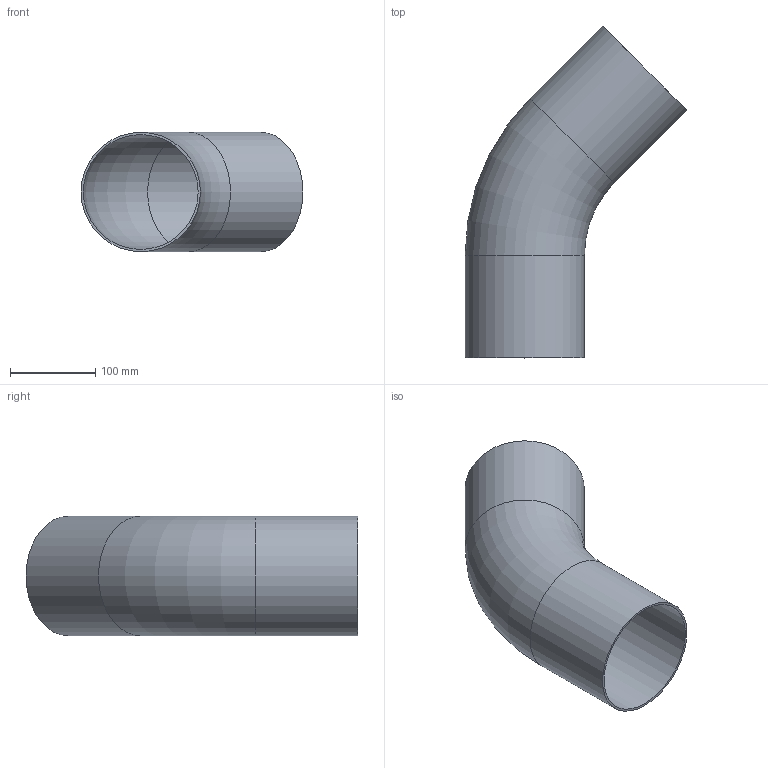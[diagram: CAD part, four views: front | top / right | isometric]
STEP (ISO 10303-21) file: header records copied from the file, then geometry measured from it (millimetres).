
FILE_DESCRIPTION(/* description */ (''),/* implementation_level */ '2;1');
FILE_NAME(/* name */ 'C:\Users\LK_9K\Desktop\STRAUB BOGEN 45 B3 DN125.stp',/* time_stamp */ '2021-04-09T07:12:24+02:00',/* author */ ('LK_9K'),/* organization */ (''),/* preprocessor_version */ 'ST-DEVELOPER v18.1',/* originating_system */ 'Autodesk Inventor 2020',/* authorisation */ '');
FILE_SCHEMA (('AUTOMOTIVE_DESIGN { 1 0 10303 214 3 1 1 }'));
Length unit declared in the file: millimetre
Products named in the file (1): Bauteil1
Bounding box: 259.74 x 388.59 x 139.7 mm (x, y, z)
Volume: 435875.2 mm3; surface area: 337528.3 mm2
Topology: 1 solids, 1 shells, 8 faces, 20 edges, 14 vertices
Faces by surface type: cylinder 4, torus 2, plane 2
Full cylindrical faces by diameter (mm): 134.5 x2, 139.7 x2
Entity records: 301 total; most frequent: DIRECTION 54, CARTESIAN_POINT 43, ORIENTED_EDGE 40, AXIS2_PLACEMENT_3D 25, EDGE_CURVE 20, CIRCLE 16, VERTEX_POINT 14, EDGE_LOOP 10
